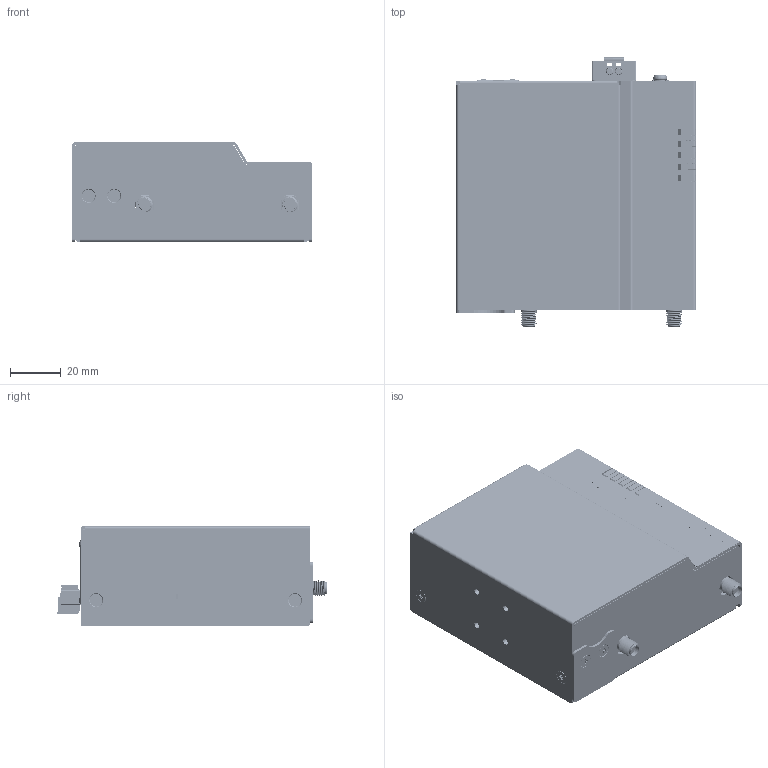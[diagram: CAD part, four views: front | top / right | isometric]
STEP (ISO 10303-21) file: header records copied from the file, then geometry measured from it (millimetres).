
FILE_DESCRIPTION (( 'STEP AP214' ), '1' );
FILE_NAME ('ICR-1602.STEP', '2024-04-30T03:18:02', ( '' ), ( '' ), 'SwSTEP 2.0', 'SolidWorks 2022', '' );
FILE_SCHEMA (( 'AUTOMOTIVE_DESIGN' ));
Length unit declared in the file: millimetre
Products named in the file (31): SIM5-06F1-KNM1-01 ; COVER-2P-A_20231212_cover_1602; ICR-1602; PC LABEL-1642_TOP; con10304a_p01_asm.stp; 1960055896S000; PRT0003_1_1_2.stp; 1935130610_默认; PRT0002_1_1_2.stp; BOTTOM-2P-A_20231212_CHASSIS-1642; PRT0005_1_1_2.stp; 90_1_1_2.stp; plate_lens_2 PART; spacer-lens; 1652002024_默认; 1654002618_默认; 1600003018-01-20230908_默认; 1652000984-20230908_默认; pcb_ICR-11XX-20230908; 1990032849T000-LENS_WISE-7000; con10304a_p01_asm; assy_ICR-11XX-C-20230908_ASSY_ICR-1602; 1304003100-01_默认; 193B020402_默认; PRT0004_1_1_2.stp; 1931030520-A_默认; COVER-SIM; 1304003673-01_默认; 1654015603-01-e5900039-3d-withemi(1)-20230908; 1653008935-01_默认; ASM0001_ASM_1_1_2_ASM.stp
Assembly tree (49 placements, depth 6):
  ICR-1602
    assy_ICR-11XX-C-20230908_ASSY_ICR-1602
      pcb_ICR-11XX-20230908
      1652000984-20230908_默认
      1654015603-01-e5900039-3d-withemi(1)-20230908
      con10304a_p01_asm  x2
        con10304a_p01_asm.stp
          ASM0001_ASM_1_1_2_ASM.stp
            90_1_1_2.stp
            PRT0002_1_1_2.stp
            PRT0003_1_1_2.stp
            PRT0004_1_1_2.stp
            PRT0005_1_1_2.stp
      SIM5-06F1-KNM1-01   x2
      1304003673-01_默认  x2
      1304003100-01_默认  x3
      1600003018-01-20230908_默认
      1653008935-01_默认  x2
      1654002618_默认  x4
      1960055896S000
    BOTTOM-2P-A_20231212_CHASSIS-1642
    COVER-2P-A_20231212_cover_1602
    1931030520-A_默认  x6
    COVER-SIM
    1935130610_默认
    plate_lens_2 PART
    193B020402_默认  x6
    spacer-lens
    1652002024_默认
    PC LABEL-1642_TOP
    1990032849T000-LENS_WISE-7000
Bounding box: 94.1 x 105.6 x 39 mm (x, y, z)
Volume: 50037 mm3; surface area: 115900 mm2
Topology: 57 solids, 88 shells, 9415 faces, 25646 edges, 16557 vertices
Faces by surface type: plane 4506, bspline 3386, cylinder 1329, cone 110, sphere 42, torus 42
Entity records: 288324 total; most frequent: CARTESIAN_POINT 96245, ORIENTED_EDGE 40216, DIRECTION 28953, EDGE_CURVE 20141, LINE 13427, VECTOR 13427, VERTEX_POINT 12989, EDGE_LOOP 7946
